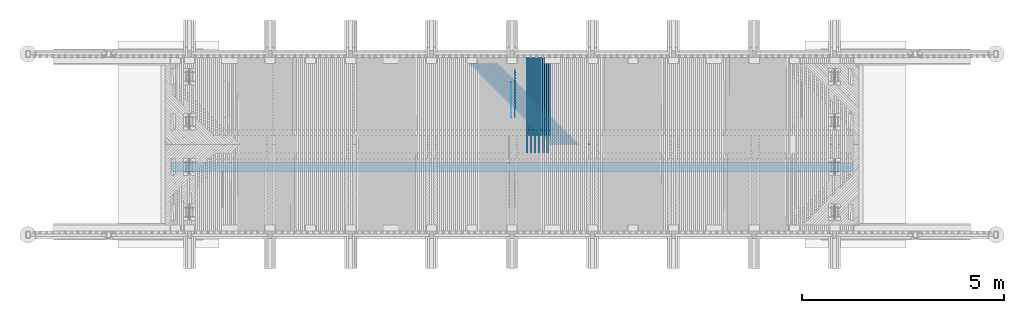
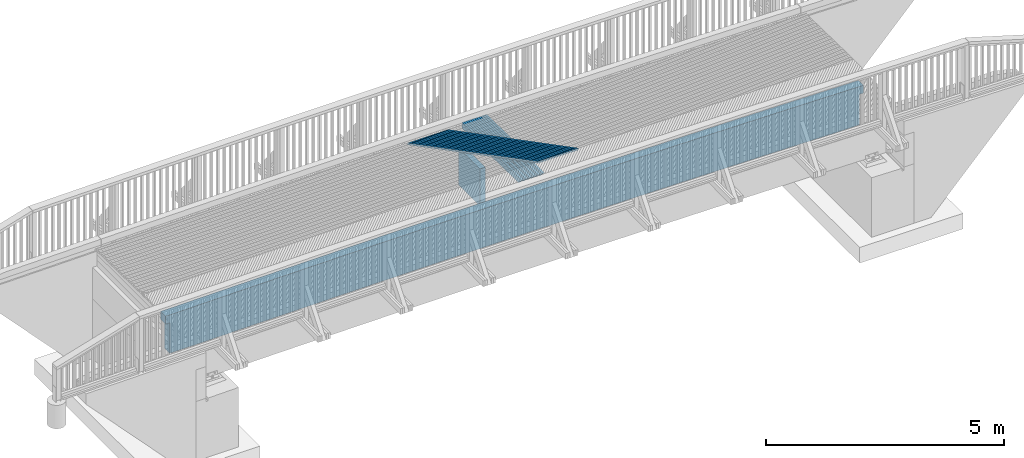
# One storey, part 33 of 53: 28 beams.
"""IFC2X3 building model written with IfcOpenShell, lengths in millimetres."""

from ifc_helpers import new_model, si_unit, frame, origin_with_axes, place, context, subcontext, project, spatial, faceted_brep, material, type_object, element, save


model = new_model("IFC2X3")

# Units and contexts
model_context = context("Model", 3, precision=1e-05, world=origin_with_axes())
body_context = subcontext(model_context, "Body", "Model", "MODEL_VIEW")
ifc_project = project(units=[si_unit("LENGTHUNIT", "METRE", prefix="MILLI"), si_unit("AREAUNIT", "SQUARE_METRE"), si_unit("VOLUMEUNIT", "CUBIC_METRE"), si_unit("MASSUNIT", "GRAM", prefix="KILO"), si_unit("TIMEUNIT", "SECOND"), si_unit("PLANEANGLEUNIT", "RADIAN"), si_unit("SOLIDANGLEUNIT", "STERADIAN"), si_unit("THERMODYNAMICTEMPERATUREUNIT", "DEGREE_CELSIUS"), si_unit("LUMINOUSINTENSITYUNIT", "LUMEN")], contexts=[model_context])

# Site, building, storey
site_placement = place(None, origin_with_axes())
site = spatial("IfcSite", under=ifc_project, at=site_placement, Name="Undefined", CompositionType="ELEMENT")
building_placement = place(site_placement, origin_with_axes())
building = spatial("IfcBuilding", under=site, at=building_placement, Name="Undefined", CompositionType="ELEMENT")
storey_placement = place(building_placement, origin_with_axes())
storey = spatial("IfcBuildingStorey", under=building, at=storey_placement, Name="Undefined", CompositionType="ELEMENT", Elevation=0.0)

# Beams
ifc_material = material(Name="TIMBER/Timber_Undefined")
beam_type_1 = type_object("IfcBeamType", Name="945*140", PredefinedType="NOTDEFINED")
beam_1_placement = place(storey_placement, frame((8000.0, 43937.5, 2542.6979002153), z_axis=(0.0, 0.0, 1.0), x_axis=(0.0, -1.0, 0.0)))
element("IfcBeam", 1, at=beam_1_placement, inside=storey, type_object=beam_type_1, material=ifc_material, Name="PALKKI", ObjectType="945*140", context=body_context, shape_type="Brep", body=[
    faceted_brep([(0.0, 70.0, -472.5), (0.0, 70.0, 472.5), (905.0, 70.0, 472.5), (905.0, 70.0, -472.5), (0.0, -70.0, 472.5), (905.0, -70.0, 472.5), (0.0, -70.0, -472.5), (905.0, -70.0, -472.5)], [[[0, 1, 2, 3]], [[1, 4, 5, 2]], [[4, 6, 7, 5]], [[6, 0, 3, 7]], [[5, 7, 3, 2]], [[6, 4, 1, 0]]]),
])
beam_type_2 = type_object("IfcBeamType", Name="50*50", PredefinedType="NOTDEFINED")
for number, where, z_axis, x_axis, name in (
    (2, (9903.90922166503, 42365.4998996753, 3233.11191274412), (0.707070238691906, 0.706981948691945, -0.0151063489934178), (-0.707142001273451, 0.706948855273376, -0.0131721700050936), "BEAM"),
    (3, (9833.18532878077, 42365.4998996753, 3233.33139353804), (0.707072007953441, 0.706981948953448, -0.0150232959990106), (-0.707140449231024, 0.706948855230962, -0.0132552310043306), "BEAM"),
    (4, (9762.46141060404, 42365.4998996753, 3233.54256705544), (0.707073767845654, 0.706981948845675, -0.0149402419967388), (-0.707138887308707, 0.706948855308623, -0.0133382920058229), "BEAM"),
    (5, (9691.73746811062, 42365.4998996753, 3233.7454332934), (0.707075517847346, 0.706981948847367, -0.0148571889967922), (-0.707137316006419, 0.706948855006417, -0.0134213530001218), "BEAM"),
    (6, (9621.01350227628, 42365.4998996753, 3233.93999224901), (0.707077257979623, 0.706981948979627, -0.0147741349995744), (-0.707135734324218, 0.706948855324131, -0.0135044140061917), "BEAM"),
    (7, (9550.28951407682, 42365.4998996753, 3234.12624391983), (0.707078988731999, 0.706981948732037, -0.0146910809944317), (-0.70713414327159, 0.706948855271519, -0.0135874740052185), "BEAM"),
    (8, (9479.565504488, 42365.4998996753, 3234.30418830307), (0.70708070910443, 0.706981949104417, -0.0146080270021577), (-0.70713254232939, 0.706948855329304, -0.0136705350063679), "BEAM"),
    (9, (9408.8414744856, 42365.4998996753, 3234.4738253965), (0.707082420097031, 0.706981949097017, -0.0145249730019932), (-0.707130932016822, 0.706948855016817, -0.0137535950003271), "BEAM"),
    (10, (9338.11742504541, 42365.4998996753, 3234.63515519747), (0.707084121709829, 0.706981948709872, -0.0144419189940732), (-0.707129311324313, 0.70694885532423, -0.0138366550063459), "BEAM"),
    (11, (9267.39335714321, 42365.4998996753, 3234.78817770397), (0.70708581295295, 0.706981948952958, -0.0143588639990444), (-0.707127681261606, 0.706948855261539, -0.0139197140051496), "BEAM"),
    (12, (9196.66927175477, 42365.4998996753, 3234.93289291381), (0.707087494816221, 0.70698194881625, -0.0142758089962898), (-0.707126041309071, 0.706948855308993, -0.0140027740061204), "BEAM"),
    (13, (9125.94516985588, 42365.4998996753, 3235.06930082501), (0.707089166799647, 0.706981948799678, -0.0141927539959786), (-0.707124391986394, 0.706948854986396, -0.0140858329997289), "BEAM"),
    (14, (9055.22105242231, 42365.4998996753, 3235.1974014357), (0.707090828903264, 0.706981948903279, -0.0141096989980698), (-0.707122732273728, 0.706948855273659, -0.0141688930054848), "BEAM"),
    (15, (8984.49692042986, 42365.4998996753, 3235.31719474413), (0.707092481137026, 0.706981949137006, -0.0140266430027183), (-0.707121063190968, 0.706948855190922, -0.014251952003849), "BEAM"),
):
    element("IfcBeam", number, at=place(storey_placement, frame(where, z_axis=z_axis, x_axis=x_axis)), inside=storey, type_object=beam_type_2, material=ifc_material, Name=name, ObjectType="50*50", context=body_context, shape_type="Brep", body=[
        faceted_brep([(23.5869248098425, 25.0000000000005, -24.9999999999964), (-26.415415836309, 25.0000000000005, 25.0000000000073), (2802.92643296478, 25.0, 25.0), (2852.92877373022, 25.0, -25.0000000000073), (-25.001170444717, -24.9999999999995, 25.0000000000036), (2804.3406783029, -25.0, 24.9999999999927), (25.0011701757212, -24.9999999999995, -24.9999999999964), (2854.34301907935, -25.0, -25.0)], [[[0, 1, 2, 3]], [[1, 4, 5, 2]], [[4, 6, 7, 5]], [[6, 0, 3, 7]], [[5, 7, 3, 2]], [[6, 4, 1, 0]]]),
    ])
beam_type_3 = type_object("IfcBeamType", Name="150*50", PredefinedType="NOTDEFINED")
beam_2_placement = place(storey_placement, frame((8875.35105555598, 44513.4953923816, 3092.51355357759), z_axis=(0.00137347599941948, 0.0199960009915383, 0.999799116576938), x_axis=(2.74690000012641e-05, -0.999800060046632, 0.0199959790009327)))
element("IfcBeam", 16, at=beam_2_placement, inside=storey, type_object=beam_type_3, material=ifc_material, Name="BEAM", ObjectType="150*50", context=body_context, shape_type="Brep", body=[
    faceted_brep([(1.28420651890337e-08, -24.9999999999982, -74.9999999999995), (1.28420651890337e-08, 25.0000000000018, -75.0), (2375.00494422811, 25.0000000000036, -75.0), (2375.0049444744, -24.9999999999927, -74.9999999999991), (-1.28347892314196e-08, -24.9999999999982, 75.0), (-1.28347892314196e-08, 25.0, 75.0), (2150.42515052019, 25.0000000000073, 75.0), (2510.59248715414, 25.0000000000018, 60.5875433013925), (2510.5924871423, -24.9999999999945, 60.5875430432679), (2150.42514405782, -24.9999999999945, 75.0)], [[[0, 1, 2, 3]], [[0, 4, 5, 1]], [[2, 1, 5, 6, 7]], [[3, 2, 7, 8]], [[4, 0, 3, 8, 9]], [[5, 4, 9, 6]], [[8, 7, 6, 9]]]),
])
beam_3_placement = place(storey_placement, frame((8925.37102920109, 44513.4953923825, 3092.43652922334), z_axis=(0.00153959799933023, 0.0199960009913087, 0.999798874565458), x_axis=(3.0791000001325e-05, -0.999800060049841, 0.0199959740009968)))
element("IfcBeam", 17, at=beam_3_placement, inside=storey, type_object=beam_type_3, material=ifc_material, Name="BEAM", ObjectType="150*50", context=body_context, shape_type="Brep", body=[
    faceted_brep([(1.28420651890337e-08, -24.9999999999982, -74.9999999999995), (-1.28347892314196e-08, -24.9999999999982, 75.0), (-1.28347892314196e-08, 25.0, 75.0), (1.28420651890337e-08, 25.0000000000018, -75.0), (1789.96936408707, 24.9999999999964, 75.0000000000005), (1928.42646328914, 24.9999999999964, -74.9999999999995), (1928.42646353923, -25.0000000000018, -75.0), (1789.96936433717, -25.0000000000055, 74.9999999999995)], [[[0, 1, 2, 3]], [[3, 2, 4, 5]], [[0, 3, 5, 6]], [[1, 0, 6, 7]], [[2, 1, 7, 4]], [[5, 4, 7, 6]]]),
])
beam_4_placement = place(storey_placement, frame((8775.33111583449, 44513.4953923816, 3092.65068841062), z_axis=(0.00120735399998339, 0.0199960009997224, 0.999799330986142), x_axis=(2.41470000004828e-05, -0.999800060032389, 0.0199959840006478)))
element("IfcBeam", 18, at=beam_4_placement, inside=storey, type_object=beam_type_3, material=ifc_material, Name="BEAM", ObjectType="150*50", context=body_context, shape_type="Brep", body=[
    faceted_brep([(1.28420651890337e-08, -24.9999999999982, -74.9999999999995), (1.28420651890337e-08, 25.0000000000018, -75.0), (2375.00494422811, 25.0000000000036, -75.0), (2375.0049444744, -24.9999999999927, -74.9999999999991), (-1.28347892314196e-08, -24.9999999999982, 75.0), (-1.28347892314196e-08, 25.0, 75.0), (2150.42515052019, 25.0000000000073, 75.0), (2510.59248715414, 25.0000000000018, 60.5875433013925), (2510.5924871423, -24.9999999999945, 60.5875430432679), (2150.42514405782, -24.9999999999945, 75.0)], [[[0, 1, 2, 3]], [[0, 4, 5, 1]], [[2, 1, 5, 6, 7]], [[3, 2, 7, 8]], [[4, 0, 3, 8, 9]], [[5, 4, 9, 6]], [[8, 7, 6, 9]]]),
])
beam_5_placement = place(storey_placement, frame((8825.35110158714, 44513.4953923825, 3092.5819751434), z_axis=(0.00137347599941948, 0.0199960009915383, 0.999799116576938), x_axis=(2.74690000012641e-05, -0.999800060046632, 0.0199959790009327)))
element("IfcBeam", 19, at=beam_5_placement, inside=storey, type_object=beam_type_3, material=ifc_material, Name="BEAM", ObjectType="150*50", context=body_context, shape_type="Brep", body=[
    faceted_brep([(1.28420651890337e-08, -24.9999999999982, -74.9999999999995), (-1.28347892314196e-08, -24.9999999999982, 75.0), (-1.28347892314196e-08, 25.0, 75.0), (1.28420651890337e-08, 25.0000000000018, -75.0), (1789.96936408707, 24.9999999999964, 75.0000000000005), (1928.42646328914, 24.9999999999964, -74.9999999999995), (1928.42646353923, -25.0000000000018, -75.0), (1789.96936433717, -25.0000000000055, 74.9999999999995)], [[[0, 1, 2, 3]], [[3, 2, 4, 5]], [[0, 3, 5, 6]], [[1, 0, 6, 7]], [[2, 1, 7, 4]], [[5, 4, 7, 6]]]),
])
beam_6_placement = place(storey_placement, frame((8675.31115470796, 44513.4953923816, 3092.77120439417), z_axis=(0.00104123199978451, 0.0199960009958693, 0.99979951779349), x_axis=(2.08240000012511e-05, -0.999800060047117, 0.0199959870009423)))
element("IfcBeam", 20, at=beam_6_placement, inside=storey, type_object=beam_type_3, material=ifc_material, Name="BEAM", ObjectType="150*50", context=body_context, shape_type="Brep", body=[
    faceted_brep([(1.28420651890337e-08, -24.9999999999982, -74.9999999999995), (1.28420651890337e-08, 25.0000000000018, -75.0), (2375.00494422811, 25.0000000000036, -75.0), (2375.0049444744, -24.9999999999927, -74.9999999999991), (-1.28347892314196e-08, -24.9999999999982, 75.0), (-1.28347892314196e-08, 25.0, 75.0), (2150.42515052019, 25.0000000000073, 75.0), (2510.59248715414, 25.0000000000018, 60.5875433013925), (2510.5924871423, -24.9999999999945, 60.5875430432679), (2150.42514405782, -24.9999999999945, 75.0)], [[[0, 1, 2, 3]], [[0, 4, 5, 1]], [[2, 1, 5, 6, 7]], [[3, 2, 7, 8]], [[4, 0, 3, 8, 9]], [[5, 4, 9, 6]], [[8, 7, 6, 9]]]),
])
beam_7_placement = place(storey_placement, frame((8725.33115118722, 44513.4953923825, 3092.71080221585), z_axis=(0.00120735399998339, 0.0199960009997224, 0.999799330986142), x_axis=(2.41470000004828e-05, -0.999800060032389, 0.0199959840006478)))
element("IfcBeam", 21, at=beam_7_placement, inside=storey, type_object=beam_type_3, material=ifc_material, Name="BEAM", ObjectType="150*50", context=body_context, shape_type="Brep", body=[
    faceted_brep([(1.28420651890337e-08, -24.9999999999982, -74.9999999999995), (-1.28347892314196e-08, -24.9999999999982, 75.0), (-1.28347892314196e-08, 25.0, 75.0), (1.28420651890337e-08, 25.0000000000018, -75.0), (1789.96936408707, 24.9999999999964, 75.0000000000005), (1928.42646328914, 24.9999999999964, -74.9999999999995), (1928.42646353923, -25.0000000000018, -75.0), (1789.96936433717, -25.0000000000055, 74.9999999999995)], [[[0, 1, 2, 3]], [[3, 2, 4, 5]], [[0, 3, 5, 6]], [[1, 0, 6, 7]], [[2, 1, 7, 4]], [[5, 4, 7, 6]]]),
])
beam_8_placement = place(storey_placement, frame((8575.29117493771, 44513.4953923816, 3092.8751015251), z_axis=(0.00087510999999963, 0.0199960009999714, 0.999799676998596), x_axis=(1.75020000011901e-05, -0.999800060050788, 0.0199959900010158)))
element("IfcBeam", 22, at=beam_8_placement, inside=storey, type_object=beam_type_3, material=ifc_material, Name="BEAM", ObjectType="150*50", context=body_context, shape_type="Brep", body=[
    faceted_brep([(1.28420651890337e-08, -24.9999999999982, -74.9999999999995), (1.28420651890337e-08, 25.0000000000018, -75.0), (2375.00494422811, 25.0000000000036, -75.0), (2375.0049444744, -24.9999999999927, -74.9999999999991), (-1.28347892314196e-08, -24.9999999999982, 75.0), (-1.28347892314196e-08, 25.0, 75.0), (2150.42515052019, 25.0000000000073, 75.0), (2510.59248715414, 25.0000000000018, 60.5875433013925), (2510.5924871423, -24.9999999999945, 60.5875430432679), (2150.42520082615, -25.0000000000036, 75.0000000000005)], [[[0, 1, 2, 3]], [[0, 4, 5, 1]], [[2, 1, 5, 6, 7]], [[3, 2, 7, 8]], [[4, 0, 3, 8, 9]], [[5, 4, 9, 6]], [[6, 9, 8, 7]]]),
])
beam_9_placement = place(storey_placement, frame((8625.31118076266, 44513.4953923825, 3092.82301043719), z_axis=(0.00104123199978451, 0.0199960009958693, 0.99979951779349), x_axis=(2.08240000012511e-05, -0.999800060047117, 0.0199959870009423)))
element("IfcBeam", 23, at=beam_9_placement, inside=storey, type_object=beam_type_3, material=ifc_material, Name="BEAM", ObjectType="150*50", context=body_context, shape_type="Brep", body=[
    faceted_brep([(1.28420651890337e-08, -24.9999999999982, -74.9999999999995), (-1.28347892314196e-08, -24.9999999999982, 75.0), (-1.28347892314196e-08, 25.0, 75.0), (1.28420651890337e-08, 25.0000000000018, -75.0), (1789.96936408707, 24.9999999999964, 75.0000000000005), (1928.42646328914, 24.9999999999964, -74.9999999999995), (1928.42646353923, -25.0000000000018, -75.0), (1789.96936433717, -25.0000000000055, 74.9999999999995)], [[[0, 1, 2, 3]], [[3, 2, 4, 5]], [[0, 3, 5, 6]], [[1, 0, 6, 7]], [[2, 1, 7, 4]], [[5, 4, 7, 6]]]),
])
beam_10_placement = place(storey_placement, frame((8475.27117928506, 44513.4953923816, 3092.96237980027), z_axis=(0.000708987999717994, 0.019996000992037, 0.999799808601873), x_axis=(1.41790000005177e-05, -0.999800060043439, 0.0199959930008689)))
element("IfcBeam", 24, at=beam_10_placement, inside=storey, type_object=beam_type_3, material=ifc_material, Name="BEAM", ObjectType="150*50", context=body_context, shape_type="Brep", body=[
    faceted_brep([(1.28420651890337e-08, -24.9999999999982, -74.9999999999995), (1.28420651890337e-08, 25.0000000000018, -75.0), (2375.00494422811, 25.0000000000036, -75.0), (2375.0049444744, -24.9999999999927, -74.9999999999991), (-1.28347892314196e-08, -24.9999999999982, 75.0), (-1.28347892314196e-08, 25.0, 75.0), (2150.42515052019, 25.0000000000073, 75.0), (2510.59248715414, 25.0000000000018, 60.5875433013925), (2510.5924871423, -24.9999999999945, 60.5875430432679), (2150.42514405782, -24.9999999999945, 75.0)], [[[0, 1, 2, 3]], [[0, 4, 5, 1]], [[2, 1, 5, 6, 7]], [[3, 2, 7, 8]], [[4, 0, 3, 8, 9]], [[5, 4, 9, 6]], [[8, 7, 6, 9]]]),
])
beam_11_placement = place(storey_placement, frame((8525.29119307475, 44513.4953923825, 3092.91859980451), z_axis=(0.00087510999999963, 0.0199960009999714, 0.999799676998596), x_axis=(1.75020000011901e-05, -0.999800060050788, 0.0199959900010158)))
element("IfcBeam", 25, at=beam_11_placement, inside=storey, type_object=beam_type_3, material=ifc_material, Name="BEAM", ObjectType="150*50", context=body_context, shape_type="Brep", body=[
    faceted_brep([(1.28420651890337e-08, -24.9999999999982, -74.9999999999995), (-1.28347892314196e-08, -24.9999999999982, 75.0), (-1.28347892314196e-08, 25.0, 75.0), (1.28420651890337e-08, 25.0000000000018, -75.0), (1789.96936408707, 24.9999999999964, 75.0000000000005), (1928.42646328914, 24.9999999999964, -74.9999999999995), (1928.42646353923, -25.0000000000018, -75.0), (1789.96936433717, -25.0000000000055, 74.9999999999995)], [[[0, 1, 2, 3]], [[3, 2, 4, 5]], [[0, 3, 5, 6]], [[1, 0, 6, 7]], [[2, 1, 7, 4]], [[5, 4, 7, 6]]]),
])
beam_12_placement = place(storey_placement, frame((8375.25117051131, 44513.4953923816, 3093.03303921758), z_axis=(0.000542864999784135, 0.019996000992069, 0.999799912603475), x_axis=(1.08570000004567e-05, -0.999800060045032, 0.0199959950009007)))
element("IfcBeam", 26, at=beam_12_placement, inside=storey, type_object=beam_type_3, material=ifc_material, Name="BEAM", ObjectType="150*50", context=body_context, shape_type="Brep", body=[
    faceted_brep([(1.28420651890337e-08, -24.9999999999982, -74.9999999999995), (1.28420651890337e-08, 25.0000000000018, -75.0), (2375.00494422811, 25.0000000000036, -75.0), (2375.0049444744, -24.9999999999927, -74.9999999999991), (-1.28347892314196e-08, -24.9999999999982, 75.0), (-1.28347892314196e-08, 25.0, 75.0), (2150.42515052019, 25.0000000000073, 75.0), (2510.59248715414, 25.0000000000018, 60.5875433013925), (2510.5924871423, -24.9999999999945, 60.5875430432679), (2150.42514405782, -24.9999999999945, 75.0)], [[[0, 1, 2, 3]], [[0, 4, 5, 1]], [[2, 1, 5, 6, 7]], [[3, 2, 7, 8]], [[4, 0, 3, 8, 9]], [[5, 4, 9, 6]], [[8, 7, 6, 9]]]),
])
beam_13_placement = place(storey_placement, frame((8425.27119088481, 44513.4953923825, 3092.99757031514), z_axis=(0.000708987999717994, 0.019996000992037, 0.999799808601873), x_axis=(1.41790000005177e-05, -0.999800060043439, 0.0199959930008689)))
element("IfcBeam", 27, at=beam_13_placement, inside=storey, type_object=beam_type_3, material=ifc_material, Name="BEAM", ObjectType="150*50", context=body_context, shape_type="Brep", body=[
    faceted_brep([(1.28420651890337e-08, -24.9999999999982, -74.9999999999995), (-1.28347892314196e-08, -24.9999999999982, 75.0), (-1.28347892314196e-08, 25.0, 75.0), (1.28420651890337e-08, 25.0000000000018, -75.0), (1789.96936408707, 24.9999999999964, 75.0000000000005), (1928.42646328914, 24.9999999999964, -74.9999999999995), (1928.42646353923, -25.0000000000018, -75.0), (1789.96936433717, -25.0000000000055, 74.9999999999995)], [[[0, 1, 2, 3]], [[3, 2, 4, 5]], [[0, 3, 5, 6]], [[1, 0, 6, 7]], [[2, 1, 7, 4]], [[5, 4, 7, 6]]]),
])
beam_type_4 = type_object("IfcBeamType", Name="990*215", PredefinedType="NOTDEFINED")
beam_14_placement = place(storey_placement, frame((243.613169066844, 41805.0, 2502.11879463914), z_axis=(0.0, 0.0, 1.0), x_axis=(1.0, 0.0, 0.0)))
element("IfcBeam", 28, at=beam_14_placement, inside=storey, type_object=beam_type_4, material=ifc_material, Name="PALKKI", ObjectType="990*215", context=body_context, shape_type="Brep", body=[
    faceted_brep([(16106.3868309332, 107.5, -494.790894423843), (16106.3868309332, -107.5, -494.790894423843), (16080.5342107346, -107.5, -494.790894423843), (15793.4597682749, -107.5, -494.790894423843), (15506.3868309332, -107.5, -494.958794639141), (15506.3868309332, 107.5, -494.958794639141), (15793.4597682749, 107.5, -494.790894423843), (16080.5342107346, 107.5, -494.790894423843), (16106.3868309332, 107.5, 285.209105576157), (16106.3868309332, -107.5, 285.209105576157), (16206.3868309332, 107.5, 285.209105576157), (16206.3868309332, -107.5, 285.209105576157), (16206.3868309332, 107.5, 485.682039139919), (16206.3868309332, -107.5, 485.682039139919), (-627.370013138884, 107.5, 486.625216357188), (-627.370013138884, -107.5, 486.625216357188), (-316.879497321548, -107.5, 490.87213125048), (-316.879497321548, 107.5, 490.87213125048), (-693.613169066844, -107.5, 485.684940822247), (-693.613169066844, -107.5, 285.209105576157), (-624.563039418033, -107.5, 285.209105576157), (-693.613169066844, 107.5, 485.684940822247), (-693.613169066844, 107.5, 285.209105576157), (-624.563039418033, 107.5, 285.209105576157), (-593.613169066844, 107.5, 285.209105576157), (-593.613169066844, -107.5, 285.209105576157), (-593.613169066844, 107.5, -494.790894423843), (-593.613169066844, -107.5, -494.790894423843), (-303.651924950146, -107.5, -494.790894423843), (-6.38683093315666, -107.5, 494.958794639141), (6.38683093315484, -107.5, -494.958794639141), (-6.38683093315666, 107.5, 494.958794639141), (6.38683093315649, 107.5, -494.790894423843), (304.107903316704, 107.5, 498.885205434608), (316.370645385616, 107.5, -491.038844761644), (-303.651924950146, 107.5, -494.790894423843), (316.370645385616, -107.5, -491.038844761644), (304.107903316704, -107.5, 498.885205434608), (614.604622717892, -107.5, 502.651362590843), (614.604622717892, 107.5, 502.651362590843), (626.356441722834, 107.5, -487.278884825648), (626.356441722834, -107.5, -487.278884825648), (936.344137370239, -107.5, -483.678915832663), (925.103244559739, -107.5, 506.257265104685), (925.103244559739, 107.5, 506.257265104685), (936.344137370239, 107.5, -483.678915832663), (1246.33364975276, 107.5, -480.238938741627), (1246.33364975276, -107.5, -480.238938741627), (1235.60368613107, -107.5, 509.702912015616), (1235.60368613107, 107.5, 509.702912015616), (1546.10586472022, 107.5, 512.988302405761), (1556.32489629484, 107.5, -476.958954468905), (1556.32489629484, -107.5, -476.958954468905), (1546.10586472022, -107.5, 512.988302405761), (1856.60969761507, -107.5, 516.113435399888), (1856.60969761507, 107.5, 516.113435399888), (1866.31779442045, 107.5, -473.838963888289), (1866.31779442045, -107.5, -473.838963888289), (2176.31226155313, -107.5, -470.878967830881), (2167.11510210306, -107.5, 519.078310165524), (2167.11510210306, 107.5, 519.078310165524), (2176.31226155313, 107.5, -470.878967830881), (2486.30821511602, 107.5, -468.078967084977), (2486.30821511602, -107.5, -468.078967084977), (2477.6219954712, -107.5, 521.882925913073), (2477.6219954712, 107.5, 521.882925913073), (2788.13029500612, 107.5, 524.527281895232), (2796.30557253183, 107.5, -465.438962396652), (2796.30557253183, -107.5, -465.438962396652), (2788.13029500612, -107.5, 524.527281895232), (3098.63991799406, -107.5, 527.011377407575), (3098.63991799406, 107.5, 527.011377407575), (3106.30425122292, 107.5, -462.958954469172), (3106.30425122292, -107.5, -462.958954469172), (3416.30416861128, -107.5, -460.638943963), (3409.15078172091, -107.5, 529.335211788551), (3409.15078172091, 107.5, 529.335211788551), (3416.30416861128, 107.5, -460.638943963), (3726.30524211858, 107.5, -458.478931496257), (3726.30524211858, -107.5, -458.478931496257), (3719.66280347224, -107.5, 531.49878441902), (3719.66280347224, 107.5, 531.49878441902), (4030.1759005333, 107.5, 533.502094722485), (4036.3073891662, 107.5, -456.478917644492), (4036.3073891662, -107.5, -456.478917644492), (4030.1759005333, -107.5, 533.502094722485), (4340.68999018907, -107.5, 535.345142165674), (4340.68999018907, 107.5, 535.345142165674), (4346.3105271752, 107.5, -454.638902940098), (4346.3105271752, -107.5, -454.638902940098), (4656.31457356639, -107.5, -452.958887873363), (4651.20498972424, -107.5, 537.027926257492), (4651.20498972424, 107.5, 537.027926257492), (4656.31457356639, 107.5, -452.958887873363), (4966.31944576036, 107.5, -451.438872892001), (4966.31944576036, -107.5, -451.438872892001), (4961.72081642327, -107.5, 538.550446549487), (4961.72081642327, 107.5, 538.550446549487), (5272.23738757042, 107.5, 539.912702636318), (5276.32506117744, 107.5, -450.078858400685), (5276.32506117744, -107.5, -450.078858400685), (5272.23738757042, -107.5, 539.912702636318), (5582.75462044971, -107.5, 541.114694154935), (5582.75462044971, 107.5, 541.114694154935), (5586.33133723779, 107.5, -448.878844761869), (5586.33133723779, -107.5, -448.878844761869), (5896.33819136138, -107.5, -447.838832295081), (5893.27243234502, -107.5, 542.156420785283), (5893.27243234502, 107.5, 542.156420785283), (5896.33819136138, 107.5, -447.838832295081), (6206.34554096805, 107.5, -446.958821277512), (6206.34554096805, -107.5, -446.958821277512), (6203.79074054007, -107.5, 543.037882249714), (6203.79074054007, 107.5, 543.037882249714), (6514.30946231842, 107.5, 543.759078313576), (6516.35330347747, 107.5, -446.238811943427), (6516.35330347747, -107.5, -446.238811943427), (6514.30946231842, -107.5, 543.759078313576), (6824.82851496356, -107.5, 544.320008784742), (6824.82851496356, 107.5, 544.320008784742), (6826.36139630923, 107.5, -445.678804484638), (6826.36139630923, -107.5, -445.678804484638), (7136.36973688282, -107.5, -445.278799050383), (7135.34781575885, -107.5, 544.720673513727), (7135.34781575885, 107.5, 544.720673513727), (7136.36973688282, 107.5, -445.278799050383), (7446.37824261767, 107.5, -445.038795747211), (7446.37824261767, -107.5, -445.038795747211), (7445.86728198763, -107.5, 544.961072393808), (7445.86728198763, 107.5, 544.961072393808), (7756.38683093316, 107.5, 545.041205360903), (7756.38683093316, 107.5, -444.958794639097), (7756.38683093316, -107.5, -444.958794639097), (7756.38683093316, -107.5, 545.041205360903), (8066.90637987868, -107.5, 544.961072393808), (8066.90637987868, 107.5, 544.961072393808), (8066.39541924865, 107.5, -445.038795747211), (8066.39541924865, -107.5, -445.038795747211), (8376.40392498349, -107.5, -445.278799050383), (8377.42584610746, -107.5, 544.720673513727), (8377.42584610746, 107.5, 544.720673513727), (8376.40392498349, 107.5, -445.278799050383), (8686.41226555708, 107.5, -445.678804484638), (8686.41226555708, -107.5, -445.678804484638), (8687.94514690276, -107.5, 544.320008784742), (8687.94514690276, 107.5, 544.320008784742), (8998.46419954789, 107.5, 543.759078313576), (8996.42035838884, 107.5, -446.238811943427), (8996.42035838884, -107.5, -446.238811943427), (8998.46419954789, -107.5, 543.759078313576), (9308.98292132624, -107.5, 543.037882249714), (9308.98292132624, 107.5, 543.037882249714), (9306.42812089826, 107.5, -446.958821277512), (9306.42812089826, -107.5, -446.958821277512), (9616.43547050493, -107.5, -447.838832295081), (9619.50122952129, -107.5, 542.156420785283), (9619.50122952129, 107.5, 542.156420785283), (9616.43547050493, 107.5, -447.838832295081), (9926.44232462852, 107.5, -448.878844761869), (9926.44232462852, -107.5, -448.878844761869), (9930.0190414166, -107.5, 541.114694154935), (9930.0190414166, 107.5, 541.114694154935), (10240.5362742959, 107.5, 539.912702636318), (10236.4486006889, 107.5, -450.078858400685), (10236.4486006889, -107.5, -450.078858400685), (10240.5362742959, -107.5, 539.912702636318), (10551.052845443, -107.5, 538.550446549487), (10551.052845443, 107.5, 538.550446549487), (10546.454216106, 107.5, -451.438872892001), (10546.454216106, -107.5, -451.438872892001), (10856.4590882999, -107.5, -452.958887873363), (10861.5686721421, -107.5, 537.027926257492), (10861.5686721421, 107.5, 537.027926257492), (10856.4590882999, 107.5, -452.958887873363), (11166.4631346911, 107.5, -454.638902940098), (11166.4631346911, -107.5, -454.638902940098), (11172.0836716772, -107.5, 535.345142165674), (11172.0836716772, 107.5, 535.345142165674), (11482.597761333, 107.5, 533.502094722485), (11476.4662727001, 107.5, -456.478917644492), (11476.4662727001, -107.5, -456.478917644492), (11482.597761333, -107.5, 533.502094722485), (11793.1108583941, -107.5, 531.49878441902), (11793.1108583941, 107.5, 531.49878441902), (11786.4684197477, 107.5, -458.478931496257), (11786.4684197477, -107.5, -458.478931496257), (12096.469493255, -107.5, -460.638943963), (12103.6228801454, -107.5, 529.335211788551), (12103.6228801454, 107.5, 529.335211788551), (12096.469493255, 107.5, -460.638943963), (12406.4694106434, 107.5, -462.958954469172), (12406.4694106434, -107.5, -462.958954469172), (12414.1337438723, -107.5, 527.011377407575), (12414.1337438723, 107.5, 527.011377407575), (12724.6433668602, 107.5, 524.527281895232), (12716.4680893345, 107.5, -465.438962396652), (12716.4680893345, -107.5, -465.438962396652), (12724.6433668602, -107.5, 524.527281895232), (13035.1516663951, -107.5, 521.882925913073), (13035.1516663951, 107.5, 521.882925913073), (13026.4654467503, 107.5, -468.078967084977), (13026.4654467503, -107.5, -468.078967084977), (13336.4614003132, -107.5, -470.878967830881), (13345.6585597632, -107.5, 519.078310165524), (13345.6585597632, 107.5, 519.078310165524), (13336.4614003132, 107.5, -470.878967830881), (13646.4558674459, 107.5, -473.838963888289), (13646.4558674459, -107.5, -473.838963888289), (13656.1639642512, -107.5, 516.113435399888), (13656.1639642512, 107.5, 516.113435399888), (13966.6677971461, 107.5, 512.988302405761), (13956.4487655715, 107.5, -476.958954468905), (13956.4487655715, -107.5, -476.958954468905), (13966.6677971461, -107.5, 512.988302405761), (14277.1699757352, -107.5, 509.702912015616), (14277.1699757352, 107.5, 509.702912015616), (14266.4400121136, 107.5, -480.238938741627), (14266.4400121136, -107.5, -480.238938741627), (14576.4295244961, -107.5, -483.678915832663), (14587.6704173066, -107.5, 506.257265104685), (14587.6704173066, 107.5, 506.257265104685), (14576.4295244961, 107.5, -483.678915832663), (14886.4172201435, 107.5, -487.278884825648), (14886.4172201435, -107.5, -487.278884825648), (14898.1690391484, -107.5, 502.651362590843), (14898.1690391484, 107.5, 502.651362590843), (15208.6657585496, 107.5, 498.885205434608), (15196.4030164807, 107.5, -491.038844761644), (15196.4030164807, -107.5, -491.038844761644), (15208.6657585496, -107.5, 498.885205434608), (15519.1604927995, -107.5, 494.958794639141), (15519.1604927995, 107.5, 494.958794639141), (15806.6537751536, -107.5, 491.180342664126), (15806.6537751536, 107.5, 491.180342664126), (16094.1452189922, -107.5, 487.264500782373), (16094.1452189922, 107.5, 487.264500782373)], [[[0, 1, 2, 3, 4, 5, 6, 7]], [[8, 9, 1, 0]], [[10, 11, 9, 8]], [[12, 13, 11, 10]], [[14, 15, 16, 17]], [[15, 18, 19, 20]], [[21, 22, 19, 18]], [[15, 14, 21, 18]], [[21, 14, 23, 22]], [[24, 25, 20, 19, 22, 23]], [[26, 27, 25, 24]], [[16, 15, 20, 25, 27, 28]], [[29, 16, 28, 30]], [[17, 16, 29, 31]], [[32, 31, 33, 34]], [[17, 31, 32, 35]], [[24, 23, 14, 17, 35, 26]], [[32, 30, 28, 27, 26, 35]], [[34, 36, 30, 32]], [[29, 30, 36, 37]], [[31, 29, 37, 33]], [[33, 37, 38, 39]], [[34, 33, 39, 40]], [[36, 34, 40, 41]], [[37, 36, 41, 38]], [[38, 41, 42, 43]], [[39, 38, 43, 44]], [[40, 39, 44, 45]], [[41, 40, 45, 42]], [[42, 45, 46, 47]], [[43, 42, 47, 48]], [[44, 43, 48, 49]], [[45, 44, 49, 46]], [[46, 49, 50, 51]], [[47, 46, 51, 52]], [[48, 47, 52, 53]], [[49, 48, 53, 50]], [[50, 53, 54, 55]], [[51, 50, 55, 56]], [[52, 51, 56, 57]], [[53, 52, 57, 54]], [[54, 57, 58, 59]], [[55, 54, 59, 60]], [[56, 55, 60, 61]], [[57, 56, 61, 58]], [[58, 61, 62, 63]], [[59, 58, 63, 64]], [[60, 59, 64, 65]], [[61, 60, 65, 62]], [[62, 65, 66, 67]], [[63, 62, 67, 68]], [[64, 63, 68, 69]], [[65, 64, 69, 66]], [[66, 69, 70, 71]], [[67, 66, 71, 72]], [[68, 67, 72, 73]], [[69, 68, 73, 70]], [[70, 73, 74, 75]], [[71, 70, 75, 76]], [[72, 71, 76, 77]], [[73, 72, 77, 74]], [[74, 77, 78, 79]], [[75, 74, 79, 80]], [[76, 75, 80, 81]], [[77, 76, 81, 78]], [[78, 81, 82, 83]], [[79, 78, 83, 84]], [[80, 79, 84, 85]], [[81, 80, 85, 82]], [[82, 85, 86, 87]], [[83, 82, 87, 88]], [[84, 83, 88, 89]], [[85, 84, 89, 86]], [[86, 89, 90, 91]], [[87, 86, 91, 92]], [[88, 87, 92, 93]], [[89, 88, 93, 90]], [[90, 93, 94, 95]], [[91, 90, 95, 96]], [[92, 91, 96, 97]], [[93, 92, 97, 94]], [[94, 97, 98, 99]], [[95, 94, 99, 100]], [[96, 95, 100, 101]], [[97, 96, 101, 98]], [[98, 101, 102, 103]], [[99, 98, 103, 104]], [[100, 99, 104, 105]], [[101, 100, 105, 102]], [[102, 105, 106, 107]], [[103, 102, 107, 108]], [[104, 103, 108, 109]], [[105, 104, 109, 106]], [[106, 109, 110, 111]], [[107, 106, 111, 112]], [[108, 107, 112, 113]], [[109, 108, 113, 110]], [[110, 113, 114, 115]], [[111, 110, 115, 116]], [[112, 111, 116, 117]], [[113, 112, 117, 114]], [[114, 117, 118, 119]], [[115, 114, 119, 120]], [[116, 115, 120, 121]], [[117, 116, 121, 118]], [[118, 121, 122, 123]], [[119, 118, 123, 124]], [[120, 119, 124, 125]], [[121, 120, 125, 122]], [[122, 125, 126, 127]], [[123, 122, 127, 128]], [[124, 123, 128, 129]], [[125, 124, 129, 126]], [[126, 129, 130, 131]], [[127, 126, 131, 132]], [[128, 127, 132, 133]], [[129, 128, 133, 130]], [[130, 133, 134, 135]], [[131, 130, 135, 136]], [[132, 131, 136, 137]], [[133, 132, 137, 134]], [[134, 137, 138, 139]], [[135, 134, 139, 140]], [[136, 135, 140, 141]], [[137, 136, 141, 138]], [[138, 141, 142, 143]], [[139, 138, 143, 144]], [[140, 139, 144, 145]], [[141, 140, 145, 142]], [[142, 145, 146, 147]], [[143, 142, 147, 148]], [[144, 143, 148, 149]], [[145, 144, 149, 146]], [[146, 149, 150, 151]], [[147, 146, 151, 152]], [[148, 147, 152, 153]], [[149, 148, 153, 150]], [[150, 153, 154, 155]], [[151, 150, 155, 156]], [[152, 151, 156, 157]], [[153, 152, 157, 154]], [[154, 157, 158, 159]], [[155, 154, 159, 160]], [[156, 155, 160, 161]], [[157, 156, 161, 158]], [[158, 161, 162, 163]], [[159, 158, 163, 164]], [[160, 159, 164, 165]], [[161, 160, 165, 162]], [[162, 165, 166, 167]], [[163, 162, 167, 168]], [[164, 163, 168, 169]], [[165, 164, 169, 166]], [[166, 169, 170, 171]], [[167, 166, 171, 172]], [[168, 167, 172, 173]], [[169, 168, 173, 170]], [[170, 173, 174, 175]], [[171, 170, 175, 176]], [[172, 171, 176, 177]], [[173, 172, 177, 174]], [[174, 177, 178, 179]], [[175, 174, 179, 180]], [[176, 175, 180, 181]], [[177, 176, 181, 178]], [[178, 181, 182, 183]], [[179, 178, 183, 184]], [[180, 179, 184, 185]], [[181, 180, 185, 182]], [[182, 185, 186, 187]], [[183, 182, 187, 188]], [[184, 183, 188, 189]], [[185, 184, 189, 186]], [[186, 189, 190, 191]], [[187, 186, 191, 192]], [[188, 187, 192, 193]], [[189, 188, 193, 190]], [[190, 193, 194, 195]], [[191, 190, 195, 196]], [[192, 191, 196, 197]], [[193, 192, 197, 194]], [[194, 197, 198, 199]], [[195, 194, 199, 200]], [[196, 195, 200, 201]], [[197, 196, 201, 198]], [[198, 201, 202, 203]], [[199, 198, 203, 204]], [[200, 199, 204, 205]], [[201, 200, 205, 202]], [[202, 205, 206, 207]], [[203, 202, 207, 208]], [[204, 203, 208, 209]], [[205, 204, 209, 206]], [[206, 209, 210, 211]], [[207, 206, 211, 212]], [[208, 207, 212, 213]], [[209, 208, 213, 210]], [[210, 213, 214, 215]], [[211, 210, 215, 216]], [[212, 211, 216, 217]], [[213, 212, 217, 214]], [[214, 217, 218, 219]], [[215, 214, 219, 220]], [[216, 215, 220, 221]], [[217, 216, 221, 218]], [[218, 221, 222, 223]], [[219, 218, 223, 224]], [[220, 219, 224, 225]], [[221, 220, 225, 222]], [[222, 225, 226, 227]], [[223, 222, 227, 228]], [[224, 223, 228, 229]], [[225, 224, 229, 226]], [[226, 229, 230, 231]], [[231, 230, 232, 233]], [[233, 232, 234, 235]], [[8, 0, 7, 235, 12, 10]], [[233, 235, 7, 6]], [[231, 233, 6, 5]], [[227, 226, 231, 5]], [[228, 227, 5, 4]], [[229, 228, 4, 230]], [[232, 230, 4, 3]], [[234, 232, 3, 2]], [[234, 2, 1, 9, 11, 13]], [[235, 234, 13, 12]]]),
])

save(model, "model.ifc")
